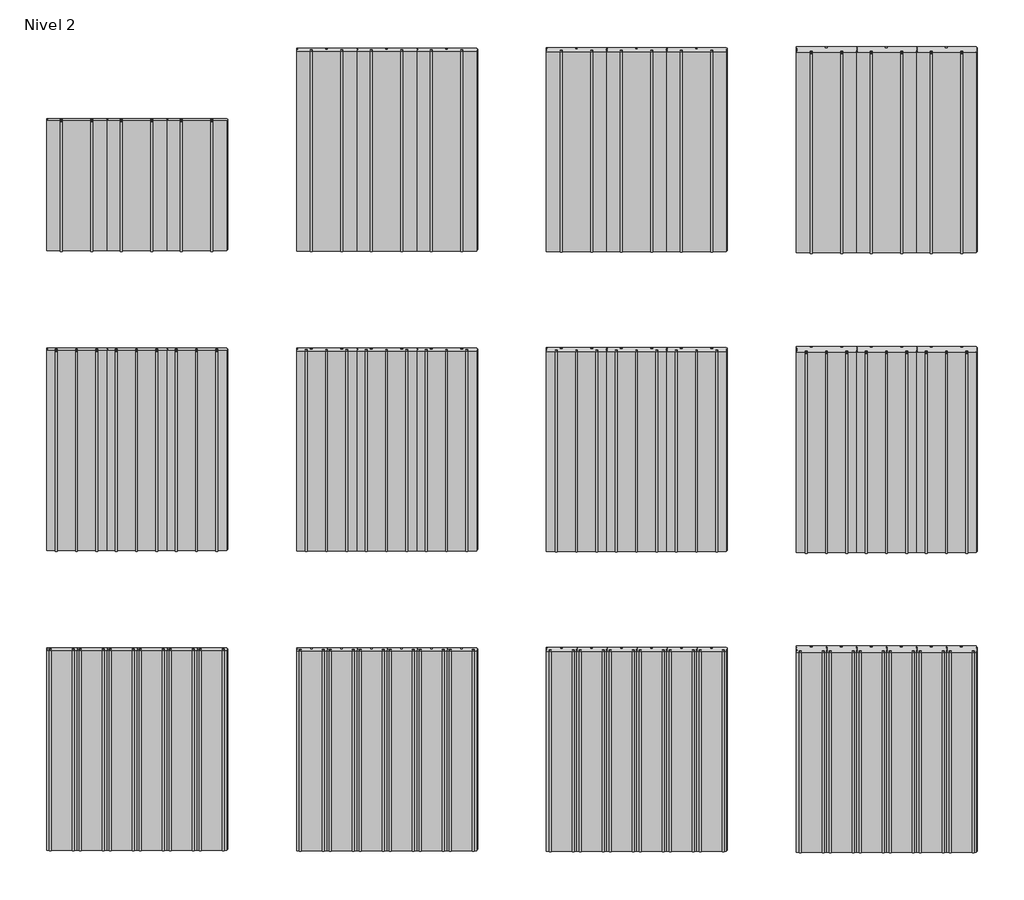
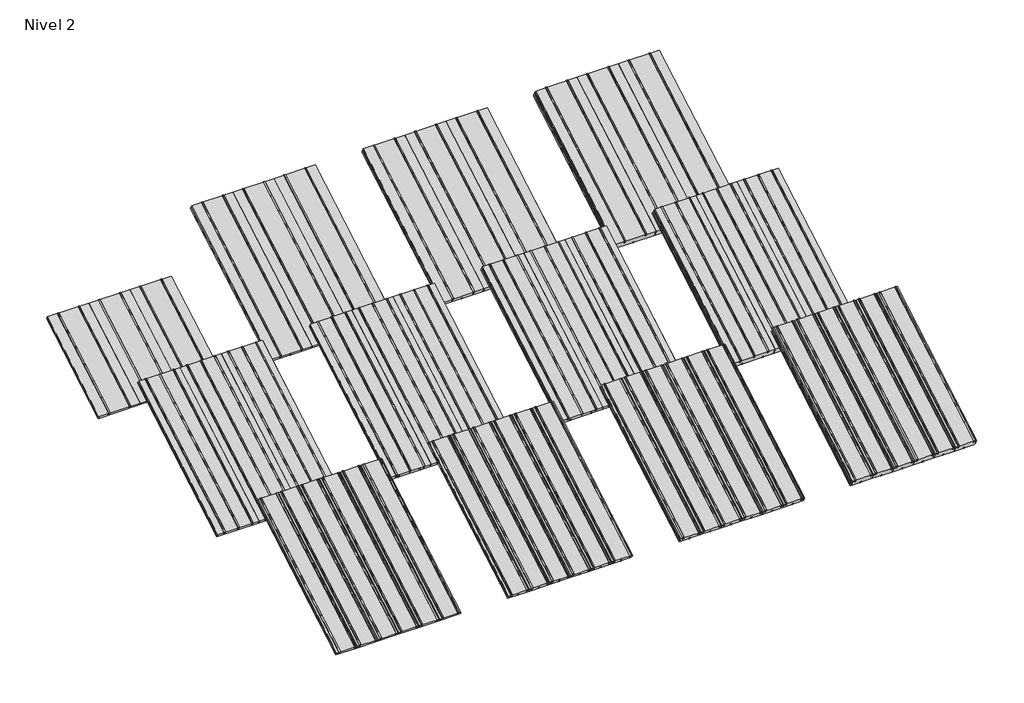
# One storey: 48 plates.
"""IFC4 building model written with IfcOpenShell, lengths in millimetres."""

from ifc_helpers import new_model, si_unit, origin, place, context, project, spatial, transform, mapped, element, save
from components import pane_tpr_10_tpr_10_34bb9cc4, panel_tpl_10_tpl_10_1e8b654e, panel_tpl_12_tpl_12_75c060e7, panel_tpl_15_tpl_15_76809f6c, panel_tpl_25_tpl_25_eb621012, panel_tpr_12_tpr_12_b8065b1a, panel_tpr_15_tpr_15_f2dff052, panel_tpr_25_tpr_25_5eba4ea3, panel_tst_10_tst_10_3e421fc3, panel_tst_12_tst_12_1e5a2f26, panel_tst_15_tst_15_e65004d1, panel_tst_25_tst_25_e7ec8f1d

model = new_model("IFC4")

# Units and contexts
model_context = context("Model", 3, world=origin())
ifc_project = project(units=[si_unit("LENGTHUNIT", "METRE", prefix="MILLI")], contexts=[model_context])

# Site, building, storey
site = spatial("IfcSite", under=ifc_project)
building = spatial("IfcBuilding", under=site)
storey = spatial("IfcBuildingStorey", under=building, Name="Nivel 2", Elevation=2400.0)

# Plates
placement = place(None, origin())
pane_tpr_10_tpr_10_shape = pane_tpr_10_tpr_10_34bb9cc4(model_context)
element("IfcPlate", 1, ObjectType="Pane TPR - 10 : TPR 10", at=placement, inside=storey, context=model_context, shape_type="MappedRepresentation", body=[
    mapped(pane_tpr_10_tpr_10_shape, transform((34707.6660286, -2433.2619398, 0.0), x_axis=(1.0, 0.0, 0.0), y_axis=(0.0, 0.4999999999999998, -0.8660254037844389), z_axis=(0.0, 0.8660254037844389, 0.4999999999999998))),
])
element("IfcPlate", 2, ObjectType="Pane TPR - 10 : TPR 10", at=placement, inside=storey, context=model_context, shape_type="MappedRepresentation", body=[
    mapped(pane_tpr_10_tpr_10_shape, transform((35307.6660288, -2433.2619398, 0.0), x_axis=(1.0, 0.0, 0.0), y_axis=(0.0, 0.4999999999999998, -0.8660254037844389), z_axis=(0.0, 0.8660254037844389, 0.4999999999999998))),
])
element("IfcPlate", 3, ObjectType="Pane TPR - 10 : TPR 10", at=placement, inside=storey, context=model_context, shape_type="MappedRepresentation", body=[
    mapped(pane_tpr_10_tpr_10_shape, transform((35907.6660288, -2433.2619398, 0.0), x_axis=(1.0, 0.0, 0.0), y_axis=(0.0, 0.4999999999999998, -0.8660254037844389), z_axis=(0.0, 0.8660254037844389, 0.4999999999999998))),
])
element("IfcPlate", 4, ObjectType="Pane TPR - 10 : TPR 10", at=placement, inside=storey, context=model_context, shape_type="MappedRepresentation", body=[
    mapped(pane_tpr_10_tpr_10_shape, transform((36507.6660288, -2433.2619398, 0.0), x_axis=(1.0, 0.0, 0.0), y_axis=(0.0, 0.4999999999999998, -0.8660254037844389), z_axis=(0.0, 0.8660254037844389, 0.4999999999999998))),
])
element("IfcPlate", 5, ObjectType="Pane TPR - 10 : TPR 10", at=placement, inside=storey, context=model_context, shape_type="MappedRepresentation", body=[
    mapped(pane_tpr_10_tpr_10_shape, transform((37107.6660288, -2433.2619398, 0.0), x_axis=(1.0, 0.0, 0.0), y_axis=(0.0, 0.4999999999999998, -0.8660254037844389), z_axis=(0.0, 0.8660254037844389, 0.4999999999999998))),
])
element("IfcPlate", 6, ObjectType="Pane TPR - 10 : TPR 10", at=placement, inside=storey, context=model_context, shape_type="MappedRepresentation", body=[
    mapped(pane_tpr_10_tpr_10_shape, transform((37707.6660288, -2433.2619398, 0.0), x_axis=(1.0, 0.0, 0.0), y_axis=(0.0, 0.4999999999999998, -0.8660254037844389), z_axis=(0.0, 0.8660254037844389, 0.4999999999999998))),
])
panel_tpl_10_tpl_10_shape = panel_tpl_10_tpl_10_1e8b654e(model_context)
element("IfcPlate", 7, ObjectType="Panel TPL - 10 : TPL 10", at=placement, inside=storey, context=model_context, shape_type="MappedRepresentation", body=[
    mapped(panel_tpl_10_tpl_10_shape, transform((35007.6660286, 3566.7380602, 0.0), x_axis=(1.0, 0.0, 0.0), y_axis=(0.0, 0.4999999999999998, -0.8660254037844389), z_axis=(0.0, 0.8660254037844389, 0.4999999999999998))),
])
element("IfcPlate", 8, ObjectType="Panel TPL - 10 : TPL 10", at=placement, inside=storey, context=model_context, shape_type="MappedRepresentation", body=[
    mapped(panel_tpl_10_tpl_10_shape, transform((36207.6660288, 3566.7380602, 0.0), x_axis=(1.0, 0.0, 0.0), y_axis=(0.0, 0.4999999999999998, -0.8660254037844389), z_axis=(0.0, 0.8660254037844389, 0.4999999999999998))),
])
element("IfcPlate", 9, ObjectType="Panel TPL - 10 : TPL 10", at=placement, inside=storey, context=model_context, shape_type="MappedRepresentation", body=[
    mapped(panel_tpl_10_tpl_10_shape, transform((37407.6660288, 3566.7380602, 0.0), x_axis=(1.0, 0.0, 0.0), y_axis=(0.0, 0.4999999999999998, -0.8660254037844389), z_axis=(0.0, 0.8660254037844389, 0.4999999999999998))),
])
panel_tpl_12_tpl_12_shape = panel_tpl_12_tpl_12_75c060e7(model_context)
element("IfcPlate", 10, ObjectType="Panel TPL - 12 : TPL 12", at=placement, inside=storey, context=model_context, shape_type="MappedRepresentation", body=[
    mapped(panel_tpl_12_tpl_12_shape, transform((40007.6660286, 3566.7380602, 0.0), x_axis=(1.0, 0.0, 0.0), y_axis=(0.0, 0.4999999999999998, -0.8660254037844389), z_axis=(0.0, 0.8660254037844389, 0.4999999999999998))),
])
element("IfcPlate", 11, ObjectType="Panel TPL - 12 : TPL 12", at=placement, inside=storey, context=model_context, shape_type="MappedRepresentation", body=[
    mapped(panel_tpl_12_tpl_12_shape, transform((41207.6660288, 3566.7380602, 0.0), x_axis=(1.0, 0.0, 0.0), y_axis=(0.0, 0.4999999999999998, -0.8660254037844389), z_axis=(0.0, 0.8660254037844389, 0.4999999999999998))),
])
element("IfcPlate", 12, ObjectType="Panel TPL - 12 : TPL 12", at=placement, inside=storey, context=model_context, shape_type="MappedRepresentation", body=[
    mapped(panel_tpl_12_tpl_12_shape, transform((42407.6660288, 3566.7380602, 0.0), x_axis=(1.0, 0.0, 0.0), y_axis=(0.0, 0.4999999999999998, -0.8660254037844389), z_axis=(0.0, 0.8660254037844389, 0.4999999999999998))),
])
panel_tpl_15_tpl_15_shape = panel_tpl_15_tpl_15_76809f6c(model_context)
element("IfcPlate", 13, ObjectType="Panel TPL - 15 : TPL 15", at=placement, inside=storey, context=model_context, shape_type="MappedRepresentation", body=[
    mapped(panel_tpl_15_tpl_15_shape, transform((45007.6660286, 3566.7380602, 0.0), x_axis=(1.0, 0.0, 0.0), y_axis=(0.0, 0.4999999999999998, -0.8660254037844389), z_axis=(0.0, 0.8660254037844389, 0.4999999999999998))),
])
element("IfcPlate", 14, ObjectType="Panel TPL - 15 : TPL 15", at=placement, inside=storey, context=model_context, shape_type="MappedRepresentation", body=[
    mapped(panel_tpl_15_tpl_15_shape, transform((46207.6660288, 3566.7380602, 0.0), x_axis=(1.0, 0.0, 0.0), y_axis=(0.0, 0.4999999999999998, -0.8660254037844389), z_axis=(0.0, 0.8660254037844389, 0.4999999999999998))),
])
element("IfcPlate", 15, ObjectType="Panel TPL - 15 : TPL 15", at=placement, inside=storey, context=model_context, shape_type="MappedRepresentation", body=[
    mapped(panel_tpl_15_tpl_15_shape, transform((47407.6660288, 3566.7380602, 0.0), x_axis=(1.0, 0.0, 0.0), y_axis=(0.0, 0.4999999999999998, -0.8660254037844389), z_axis=(0.0, 0.8660254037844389, 0.4999999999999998))),
])
panel_tpl_25_tpl_25_shape = panel_tpl_25_tpl_25_eb621012(model_context)
element("IfcPlate", 16, ObjectType="Panel TPL - 25 : TPL 25", at=placement, inside=storey, context=model_context, shape_type="MappedRepresentation", body=[
    mapped(panel_tpl_25_tpl_25_shape, transform((50007.6660286, 3566.7380602, 0.0), x_axis=(1.0, 0.0, 0.0), y_axis=(0.0, 0.4999999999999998, -0.8660254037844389), z_axis=(0.0, 0.8660254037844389, 0.4999999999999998))),
])
element("IfcPlate", 17, ObjectType="Panel TPL - 25 : TPL 25", at=placement, inside=storey, context=model_context, shape_type="MappedRepresentation", body=[
    mapped(panel_tpl_25_tpl_25_shape, transform((51207.6660288, 3566.7380602, 0.0), x_axis=(1.0, 0.0, 0.0), y_axis=(0.0, 0.4999999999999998, -0.8660254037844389), z_axis=(0.0, 0.8660254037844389, 0.4999999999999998))),
])
element("IfcPlate", 18, ObjectType="Panel TPL - 25 : TPL 25", at=placement, inside=storey, context=model_context, shape_type="MappedRepresentation", body=[
    mapped(panel_tpl_25_tpl_25_shape, transform((52407.6660288, 3566.7380602, 0.0), x_axis=(1.0, 0.0, 0.0), y_axis=(0.0, 0.4999999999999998, -0.8660254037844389), z_axis=(0.0, 0.8660254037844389, 0.4999999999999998))),
])
panel_tpr_12_tpr_12_shape = panel_tpr_12_tpr_12_b8065b1a(model_context)
element("IfcPlate", 19, ObjectType="Panel TPR - 12 : TPR 12", at=placement, inside=storey, context=model_context, shape_type="MappedRepresentation", body=[
    mapped(panel_tpr_12_tpr_12_shape, transform((39707.6660286, -2433.2619398, 0.0), x_axis=(1.0, 0.0, 0.0), y_axis=(0.0, 0.4999999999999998, -0.8660254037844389), z_axis=(0.0, 0.8660254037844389, 0.4999999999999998))),
])
element("IfcPlate", 20, ObjectType="Panel TPR - 12 : TPR 12", at=placement, inside=storey, context=model_context, shape_type="MappedRepresentation", body=[
    mapped(panel_tpr_12_tpr_12_shape, transform((40307.6660288, -2433.2619398, 0.0), x_axis=(1.0, 0.0, 0.0), y_axis=(0.0, 0.4999999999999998, -0.8660254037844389), z_axis=(0.0, 0.8660254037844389, 0.4999999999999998))),
])
element("IfcPlate", 21, ObjectType="Panel TPR - 12 : TPR 12", at=placement, inside=storey, context=model_context, shape_type="MappedRepresentation", body=[
    mapped(panel_tpr_12_tpr_12_shape, transform((40907.6660288, -2433.2619398, 0.0), x_axis=(1.0, 0.0, 0.0), y_axis=(0.0, 0.4999999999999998, -0.8660254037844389), z_axis=(0.0, 0.8660254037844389, 0.4999999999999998))),
])
element("IfcPlate", 22, ObjectType="Panel TPR - 12 : TPR 12", at=placement, inside=storey, context=model_context, shape_type="MappedRepresentation", body=[
    mapped(panel_tpr_12_tpr_12_shape, transform((41507.6660288, -2433.2619398, 0.0), x_axis=(1.0, 0.0, 0.0), y_axis=(0.0, 0.4999999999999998, -0.8660254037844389), z_axis=(0.0, 0.8660254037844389, 0.4999999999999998))),
])
element("IfcPlate", 23, ObjectType="Panel TPR - 12 : TPR 12", at=placement, inside=storey, context=model_context, shape_type="MappedRepresentation", body=[
    mapped(panel_tpr_12_tpr_12_shape, transform((42107.6660288, -2433.2619398, 0.0), x_axis=(1.0, 0.0, 0.0), y_axis=(0.0, 0.4999999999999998, -0.8660254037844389), z_axis=(0.0, 0.8660254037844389, 0.4999999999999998))),
])
element("IfcPlate", 24, ObjectType="Panel TPR - 12 : TPR 12", at=placement, inside=storey, context=model_context, shape_type="MappedRepresentation", body=[
    mapped(panel_tpr_12_tpr_12_shape, transform((42707.6660288, -2433.2619398, 0.0), x_axis=(1.0, 0.0, 0.0), y_axis=(0.0, 0.4999999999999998, -0.8660254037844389), z_axis=(0.0, 0.8660254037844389, 0.4999999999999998))),
])
panel_tpr_15_tpr_15_shape = panel_tpr_15_tpr_15_f2dff052(model_context)
element("IfcPlate", 25, ObjectType="Panel TPR - 15 : TPR 15", at=placement, inside=storey, context=model_context, shape_type="MappedRepresentation", body=[
    mapped(panel_tpr_15_tpr_15_shape, transform((44707.6660286, -2433.2619398, 0.0), x_axis=(1.0, 0.0, 0.0), y_axis=(0.0, 0.4999999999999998, -0.8660254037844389), z_axis=(0.0, 0.8660254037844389, 0.4999999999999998))),
])
element("IfcPlate", 26, ObjectType="Panel TPR - 15 : TPR 15", at=placement, inside=storey, context=model_context, shape_type="MappedRepresentation", body=[
    mapped(panel_tpr_15_tpr_15_shape, transform((45307.6660288, -2433.2619398, 0.0), x_axis=(1.0, 0.0, 0.0), y_axis=(0.0, 0.4999999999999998, -0.8660254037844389), z_axis=(0.0, 0.8660254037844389, 0.4999999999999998))),
])
element("IfcPlate", 27, ObjectType="Panel TPR - 15 : TPR 15", at=placement, inside=storey, context=model_context, shape_type="MappedRepresentation", body=[
    mapped(panel_tpr_15_tpr_15_shape, transform((45907.6660288, -2433.2619398, 0.0), x_axis=(1.0, 0.0, 0.0), y_axis=(0.0, 0.4999999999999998, -0.8660254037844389), z_axis=(0.0, 0.8660254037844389, 0.4999999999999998))),
])
element("IfcPlate", 28, ObjectType="Panel TPR - 15 : TPR 15", at=placement, inside=storey, context=model_context, shape_type="MappedRepresentation", body=[
    mapped(panel_tpr_15_tpr_15_shape, transform((46507.6660288, -2433.2619398, 0.0), x_axis=(1.0, 0.0, 0.0), y_axis=(0.0, 0.4999999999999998, -0.8660254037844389), z_axis=(0.0, 0.8660254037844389, 0.4999999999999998))),
])
element("IfcPlate", 29, ObjectType="Panel TPR - 15 : TPR 15", at=placement, inside=storey, context=model_context, shape_type="MappedRepresentation", body=[
    mapped(panel_tpr_15_tpr_15_shape, transform((47107.6660288, -2433.2619398, 0.0), x_axis=(1.0, 0.0, 0.0), y_axis=(0.0, 0.4999999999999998, -0.8660254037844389), z_axis=(0.0, 0.8660254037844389, 0.4999999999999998))),
])
element("IfcPlate", 30, ObjectType="Panel TPR - 15 : TPR 15", at=placement, inside=storey, context=model_context, shape_type="MappedRepresentation", body=[
    mapped(panel_tpr_15_tpr_15_shape, transform((47707.6660288, -2433.2619398, 0.0), x_axis=(1.0, 0.0, 0.0), y_axis=(0.0, 0.4999999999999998, -0.8660254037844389), z_axis=(0.0, 0.8660254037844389, 0.4999999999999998))),
])
panel_tpr_25_tpr_25_shape = panel_tpr_25_tpr_25_5eba4ea3(model_context)
element("IfcPlate", 31, ObjectType="Panel TPR - 25 : TPR 25", at=placement, inside=storey, context=model_context, shape_type="MappedRepresentation", body=[
    mapped(panel_tpr_25_tpr_25_shape, transform((49707.6660286, -2433.2619398, 0.0), x_axis=(1.0, 0.0, 0.0), y_axis=(0.0, 0.4999999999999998, -0.8660254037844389), z_axis=(0.0, 0.8660254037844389, 0.4999999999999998))),
])
element("IfcPlate", 32, ObjectType="Panel TPR - 25 : TPR 25", at=placement, inside=storey, context=model_context, shape_type="MappedRepresentation", body=[
    mapped(panel_tpr_25_tpr_25_shape, transform((50307.6660288, -2433.2619398, 0.0), x_axis=(1.0, 0.0, 0.0), y_axis=(0.0, 0.4999999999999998, -0.8660254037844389), z_axis=(0.0, 0.8660254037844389, 0.4999999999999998))),
])
element("IfcPlate", 33, ObjectType="Panel TPR - 25 : TPR 25", at=placement, inside=storey, context=model_context, shape_type="MappedRepresentation", body=[
    mapped(panel_tpr_25_tpr_25_shape, transform((50907.6660288, -2433.2619398, 0.0), x_axis=(1.0, 0.0, 0.0), y_axis=(0.0, 0.4999999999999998, -0.8660254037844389), z_axis=(0.0, 0.8660254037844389, 0.4999999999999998))),
])
element("IfcPlate", 34, ObjectType="Panel TPR - 25 : TPR 25", at=placement, inside=storey, context=model_context, shape_type="MappedRepresentation", body=[
    mapped(panel_tpr_25_tpr_25_shape, transform((51507.6660288, -2433.2619398, 0.0), x_axis=(1.0, 0.0, 0.0), y_axis=(0.0, 0.4999999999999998, -0.8660254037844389), z_axis=(0.0, 0.8660254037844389, 0.4999999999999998))),
])
element("IfcPlate", 35, ObjectType="Panel TPR - 25 : TPR 25", at=placement, inside=storey, context=model_context, shape_type="MappedRepresentation", body=[
    mapped(panel_tpr_25_tpr_25_shape, transform((52107.6660288, -2433.2619398, 0.0), x_axis=(1.0, 0.0, 0.0), y_axis=(0.0, 0.4999999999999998, -0.8660254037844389), z_axis=(0.0, 0.8660254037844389, 0.4999999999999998))),
])
element("IfcPlate", 36, ObjectType="Panel TPR - 25 : TPR 25", at=placement, inside=storey, context=model_context, shape_type="MappedRepresentation", body=[
    mapped(panel_tpr_25_tpr_25_shape, transform((52707.6660288, -2433.2619398, 0.0), x_axis=(1.0, 0.0, 0.0), y_axis=(0.0, 0.4999999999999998, -0.8660254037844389), z_axis=(0.0, 0.8660254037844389, 0.4999999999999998))),
])
panel_tst_10_tst_10_shape = panel_tst_10_tst_10_3e421fc3(model_context)
element("IfcPlate", 37, ObjectType="Panel TST - 10 : TST 10", at=placement, inside=storey, context=model_context, shape_type="MappedRepresentation", body=[
    mapped(panel_tst_10_tst_10_shape, transform((35007.6660286, 9566.7380602, 0.0), x_axis=(1.0, 0.0, 0.0), y_axis=(0.0, 0.49999999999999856, -0.8660254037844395), z_axis=(0.0, 0.8660254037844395, 0.49999999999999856))),
])
element("IfcPlate", 38, ObjectType="Panel TST - 10 : TST 10", at=placement, inside=storey, context=model_context, shape_type="MappedRepresentation", body=[
    mapped(panel_tst_10_tst_10_shape, transform((36207.6660288, 9566.7380602, 0.0), x_axis=(1.0, 0.0, 0.0), y_axis=(0.0, 0.49999999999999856, -0.8660254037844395), z_axis=(0.0, 0.8660254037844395, 0.49999999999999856))),
])
element("IfcPlate", 39, ObjectType="Panel TST - 10 : TST 10", at=placement, inside=storey, context=model_context, shape_type="MappedRepresentation", body=[
    mapped(panel_tst_10_tst_10_shape, transform((37407.6660288, 9566.7380602, 0.0), x_axis=(1.0, 0.0, 0.0), y_axis=(0.0, 0.49999999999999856, -0.8660254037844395), z_axis=(0.0, 0.8660254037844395, 0.49999999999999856))),
])
panel_tst_12_tst_12_shape = panel_tst_12_tst_12_1e5a2f26(model_context)
element("IfcPlate", 40, ObjectType="Panel TST - 12 : TST 12", at=placement, inside=storey, context=model_context, shape_type="MappedRepresentation", body=[
    mapped(panel_tst_12_tst_12_shape, transform((40007.6660286, 9566.7380602, 0.0), x_axis=(1.0, 0.0, 0.0), y_axis=(0.0, 0.5000000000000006, -0.8660254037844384), z_axis=(0.0, 0.8660254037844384, 0.5000000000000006))),
])
element("IfcPlate", 41, ObjectType="Panel TST - 12 : TST 12", at=placement, inside=storey, context=model_context, shape_type="MappedRepresentation", body=[
    mapped(panel_tst_12_tst_12_shape, transform((41207.6660288, 9566.7380602, 0.0), x_axis=(1.0, 0.0, 0.0), y_axis=(0.0, 0.5000000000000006, -0.8660254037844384), z_axis=(0.0, 0.8660254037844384, 0.5000000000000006))),
])
element("IfcPlate", 42, ObjectType="Panel TST - 12 : TST 12", at=placement, inside=storey, context=model_context, shape_type="MappedRepresentation", body=[
    mapped(panel_tst_12_tst_12_shape, transform((42407.6660288, 9566.7380602, 0.0), x_axis=(1.0, 0.0, 0.0), y_axis=(0.0, 0.5000000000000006, -0.8660254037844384), z_axis=(0.0, 0.8660254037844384, 0.5000000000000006))),
])
panel_tst_15_tst_15_shape = panel_tst_15_tst_15_e65004d1(model_context)
element("IfcPlate", 43, ObjectType="Panel TST - 15 : TST 15", at=placement, inside=storey, context=model_context, shape_type="MappedRepresentation", body=[
    mapped(panel_tst_15_tst_15_shape, transform((45007.6660286, 9566.7380602, 0.0), x_axis=(1.0, 0.0, 0.0), y_axis=(0.0, 0.5000000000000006, -0.8660254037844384), z_axis=(0.0, 0.8660254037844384, 0.5000000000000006))),
])
element("IfcPlate", 44, ObjectType="Panel TST - 15 : TST 15", at=placement, inside=storey, context=model_context, shape_type="MappedRepresentation", body=[
    mapped(panel_tst_15_tst_15_shape, transform((46207.6660288, 9566.7380602, 0.0), x_axis=(1.0, 0.0, 0.0), y_axis=(0.0, 0.5000000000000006, -0.8660254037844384), z_axis=(0.0, 0.8660254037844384, 0.5000000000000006))),
])
element("IfcPlate", 45, ObjectType="Panel TST - 15 : TST 15", at=placement, inside=storey, context=model_context, shape_type="MappedRepresentation", body=[
    mapped(panel_tst_15_tst_15_shape, transform((47407.6660288, 9566.7380602, 0.0), x_axis=(1.0, 0.0, 0.0), y_axis=(0.0, 0.5000000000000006, -0.8660254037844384), z_axis=(0.0, 0.8660254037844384, 0.5000000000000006))),
])
panel_tst_25_tst_25_shape = panel_tst_25_tst_25_e7ec8f1d(model_context)
element("IfcPlate", 46, ObjectType="Panel TST - 25 : TST 25", at=placement, inside=storey, context=model_context, shape_type="MappedRepresentation", body=[
    mapped(panel_tst_25_tst_25_shape, transform((50007.6660286, 9566.7380602, 0.0), x_axis=(1.0, 0.0, 0.0), y_axis=(0.0, 0.5000000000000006, -0.8660254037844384), z_axis=(0.0, 0.8660254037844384, 0.5000000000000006))),
])
element("IfcPlate", 47, ObjectType="Panel TST - 25 : TST 25", at=placement, inside=storey, context=model_context, shape_type="MappedRepresentation", body=[
    mapped(panel_tst_25_tst_25_shape, transform((51207.6660288, 9566.7380602, 0.0), x_axis=(1.0, 0.0, 0.0), y_axis=(0.0, 0.5000000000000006, -0.8660254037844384), z_axis=(0.0, 0.8660254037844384, 0.5000000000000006))),
])
element("IfcPlate", 48, ObjectType="Panel TST - 25 : TST 25", at=placement, inside=storey, context=model_context, shape_type="MappedRepresentation", body=[
    mapped(panel_tst_25_tst_25_shape, transform((52407.6660288, 9566.7380602, 0.0), x_axis=(1.0, 0.0, 0.0), y_axis=(0.0, 0.5000000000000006, -0.8660254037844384), z_axis=(0.0, 0.8660254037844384, 0.5000000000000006))),
])

save(model, "model.ifc")
